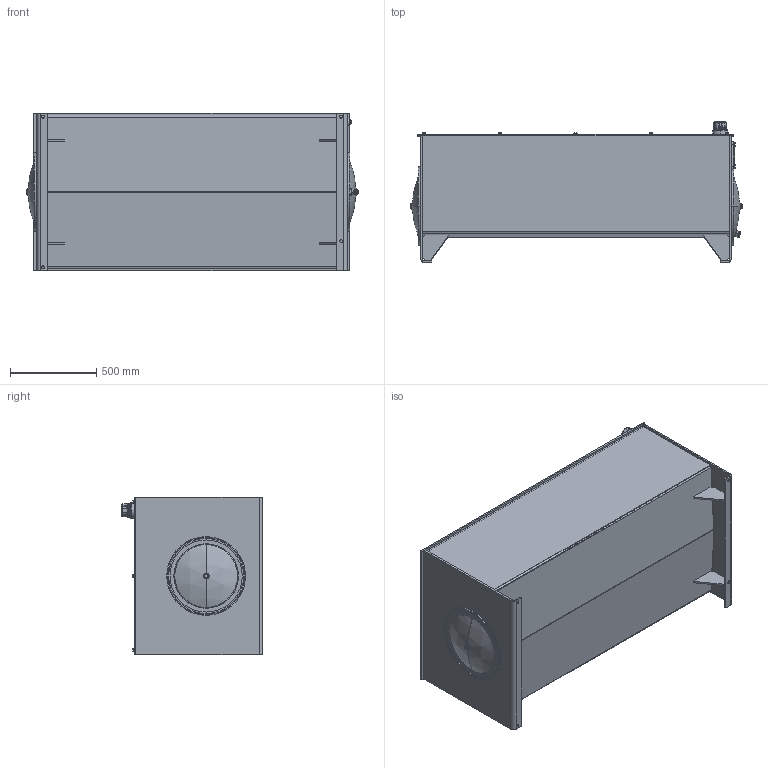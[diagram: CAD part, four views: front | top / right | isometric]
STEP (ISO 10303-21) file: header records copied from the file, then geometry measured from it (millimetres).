
FILE_DESCRIPTION (( 'STEP AP203' ), '1' );
FILE_NAME ('RJIC200-RT.STEP', '2015-01-08T15:44:54', ( '' ), ( '' ), 'SwSTEP 2.0', 'SolidWorks 2014', '' );
FILE_SCHEMA (( 'CONFIG_CONTROL_DESIGN' ));
Length unit declared in the file: inch
Products named in the file (1): RJIC200-RT
Bounding box: 1928.65 x 821.69 x 914.4 mm (x, y, z)
Volume: 52067296.7 mm3; surface area: 17112218.5 mm2
Topology: 53 solids, 53 shells, 1165 faces, 2657 edges, 1624 vertices
Faces by surface type: plane 432, cylinder 402, torus 143, cone 108, bspline 48, sphere 32
Entity records: 35863 total; most frequent: CARTESIAN_POINT 8895, DIRECTION 5994, ORIENTED_EDGE 5290, EDGE_CURVE 2645, AXIS2_PLACEMENT_3D 2379, VERTEX_POINT 1624, EDGE_LOOP 1347, CIRCLE 1261
